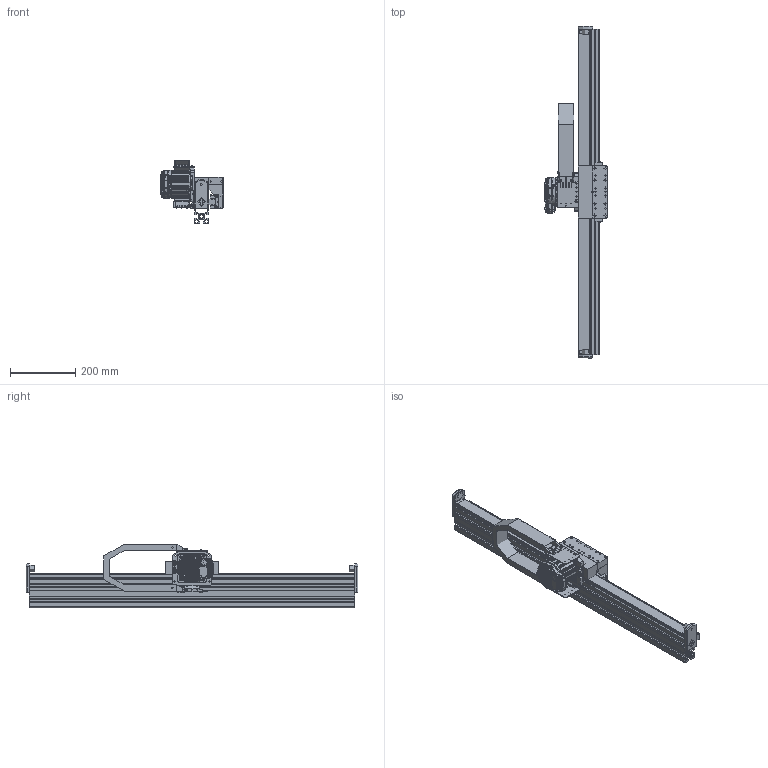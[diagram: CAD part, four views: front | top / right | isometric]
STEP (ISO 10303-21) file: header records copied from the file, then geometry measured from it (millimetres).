
FILE_DESCRIPTION( ( '' ), ' ' );
FILE_NAME( '/vol/tmp/translate-10084034474585766492/5c7ea214b628021adcd18f74.step', '2019-03-05T16:21:46', ( '' ), ( '' ), ' ', ' ', ' ' );
FILE_SCHEMA( ( 'AUTOMOTIVE_DESIGN { 1 0 10303 214 1 1 1 1 }' ) );
Length unit declared in the file: metre
Products named in the file (83): RAIL FASTENERS <12>; 20mm BEARING RAIL CAP; 100001-8065 M5-.80 X 25 ALLOY SHCS; 102684-001 BOSCH 10mm T-BLOCK M5; RAIL FASTENERS <5>; RAIL FASTENERS <14>; TRAY FASTENERS <1>; #7328; #7336; RAIL FASTENERS <8>; TRAY FASTENERS <5>; RAIL FASTENERS <13>; TRAY FASTENERS <4>; RAIL FASTENERS <3>; RAIL FASTENERS <7>; RAIL FASTENERS <6>; RAIL FASTENERS <2>; RAIL FASTENERS <4>; RAIL FASTENERS <10>; RAIL FASTENERS <1>; RAIL FASTENERS <11>; RAIL FASTENERS <16>; RAIL FASTENERS <9>; RAIL FASTENERS <17>; RAIL FASTENERS <15>; TRAY FASTENERS <3>; TRAY FASTENERS <2>; TRAY <1>; 102610-005 VHB TAPE 1-1/4 WIDE; 102656-1000 SBL-M BELT TRAY; 102567-001 T5 X 32mm BELTING; RAIL <1>; 106888-001 20mm RAIL COVER; 102732-1000 20mm STANDARD GUIDE RAIL; 104587-001 SBL-M DYNAMIC BEARING ASSEMBLY <1>; 102638-005 5202 SHIELDED DOUBLE ROW BALL BEARING; 103126-001 SBL-M BEARING SHAFT; CPM34XX & PINION <1>; GENERIC CPM 342X; 100013-008 M4 X 6 SS SET SCREW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
Assembly tree (191 placements, depth 5):
  Assem1
    102567-001 T5 X 32mm BELTING
    102977-001 LINKS
    SBL WRAP MOUNT <1>
      102663-XXX SBL WRAPAROUND MOUNT
      100001-8062 M5-.80 X 14 ALLOY SHCS  x4
      102523-001 REXROTH 20mm STD 4-HOLE BEARING BLOCK
    107186-001 SBL-M DRIVE BLOCK ASSEMBLY <1>
      105323-001 KEY 4mm SQUARE X 16mm LONG
      100001-068 M5-.80 X 40 SS SHCS  x4
      100001-061 M5-.80 X 12 SS SHCS  x2
      105272-001 SBL-M DRIVE MOUNT
      102653-002 BEARING SPACER  x2
      104587-001 SBL-M DYNAMIC BEARING ASSEMBLY <1>
        102638-005 5202 SHIELDED DOUBLE ROW BALL BEARING  x2
        103126-001 SBL-M BEARING SHAFT
      104587-001 SBL-M DYNAMIC BEARING ASSEMBLY <2>
        103126-001 SBL-M BEARING SHAFT
        102638-005 5202 SHIELDED DOUBLE ROW BALL BEARING  x2
    1000 CHASSIS <1>
      102576-1000 45-SERIES PROFILE 45X90H
      RAIL <1>
        106888-001 20mm RAIL COVER
        102732-1000 20mm STANDARD GUIDE RAIL
        RAIL FASTENERS <11>
          102684-001 BOSCH 10mm T-BLOCK M5
          100001-8065 M5-.80 X 25 ALLOY SHCS
          20mm BEARING RAIL CAP
        RAIL FASTENERS <10>
          20mm BEARING RAIL CAP
          102684-001 BOSCH 10mm T-BLOCK M5
          100001-8065 M5-.80 X 25 ALLOY SHCS
        RAIL FASTENERS <1>
          20mm BEARING RAIL CAP
          102684-001 BOSCH 10mm T-BLOCK M5
          100001-8065 M5-.80 X 25 ALLOY SHCS
        RAIL FASTENERS <17>
          20mm BEARING RAIL CAP
          100001-8065 M5-.80 X 25 ALLOY SHCS
          102684-001 BOSCH 10mm T-BLOCK M5
        RAIL FASTENERS <16>
          100001-8065 M5-.80 X 25 ALLOY SHCS
          20mm BEARING RAIL CAP
          102684-001 BOSCH 10mm T-BLOCK M5
        RAIL FASTENERS <4>
          100001-8065 M5-.80 X 25 ALLOY SHCS
          102684-001 BOSCH 10mm T-BLOCK M5
          20mm BEARING RAIL CAP
        RAIL FASTENERS <12>
          20mm BEARING RAIL CAP
          100001-8065 M5-.80 X 25 ALLOY SHCS
          102684-001 BOSCH 10mm T-BLOCK M5
        RAIL FASTENERS <2>
          102684-001 BOSCH 10mm T-BLOCK M5
          100001-8065 M5-.80 X 25 ALLOY SHCS
          20mm BEARING RAIL CAP
        RAIL FASTENERS <8>
          100001-8065 M5-.80 X 25 ALLOY SHCS
          20mm BEARING RAIL CAP
          102684-001 BOSCH 10mm T-BLOCK M5
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Bounding box: 191.92 x 1019.05 x 195.31 mm (x, y, z)
Topology: 178 solids, 183 shells, 7940 faces, 20062 edges, 12567 vertices
Faces by surface type: plane 3082, cylinder 2082, bspline 1034, torus 890, cone 662, sphere 148, extrusion 40, revolution 2
Full cylindrical faces by diameter (mm): 0.152 x1, 2.2 x31, 2.261 x25, 2.44 x25, 2.47 x4, 2.5 x24, 2.6 x4, 2.66 x4, 2.997 x4, 3 x12, 3.175 x1, 3.184 x1, 3.2 x4, 3.3 x5, 3.4 x2, 3.454 x5, 4 x2, 4.166 x5, 4.2 x29, 4.216 x8, 4.5 x7, 5 x43, 5.004 x43, 5.156 x5, 5.284 x1, 5.5 x43, 5.563 x12, 5.6 x4, 5.85 x8, 6 x12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
Entity records: 324823 total; most frequent: CARTESIAN_POINT 135853, ORIENTED_EDGE 28758, DIRECTION 28263, EDGE_CURVE 14379, AXIS2_PLACEMENT_3D 11460, VERTEX_POINT 9458, EDGE_LOOP 7639, FACE_OUTER_BOUND 6881
